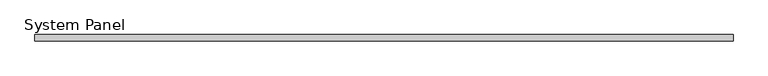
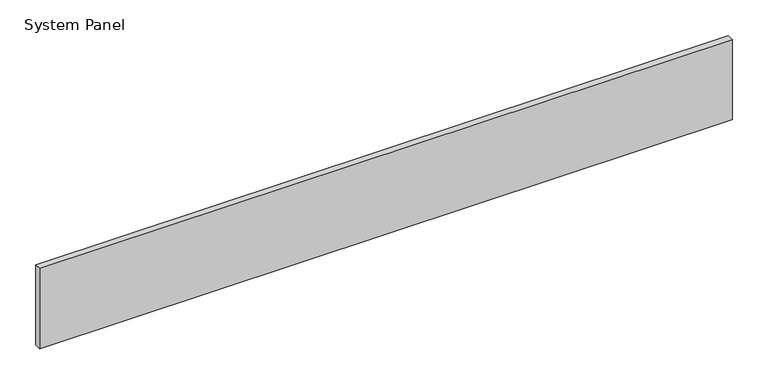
"""IFC4 building model written with IfcOpenShell, lengths in millimetres: plate geometry, System Panel : VACÍO."""

from ifc_helpers import new_model, si_unit, origin, origin_with_axes, place, context, project, spatial, polyline, outline, extrude, source, transform, mapped, element, save


def system_panel_c2da90dd(model_context):
    return source(origin(), model_context, "Body", "SweptSolid", [
        extrude(outline(polyline([(555.4580072, -5.0), (-555.4580072, -5.0), (-555.4580072, 5.0), (555.4580072, 5.0), (555.4580072, -5.0)])), origin_with_axes(), (0.0, 0.0, 1.0), 136.0),
    ])


if __name__ == "__main__":
    model = new_model("IFC4")
    model_context = context("Model", 3, world=origin())
    ifc_project = project(units=[si_unit("LENGTHUNIT", "METRE", prefix="MILLI")], contexts=[model_context])
    site = spatial("IfcSite", under=ifc_project)
    building = spatial("IfcBuilding", under=site)
    placement = place(None, origin())
    system_panel_shape = system_panel_c2da90dd(model_context)
    element("IfcPlate", 1, ObjectType="System Panel : VACÍO", at=placement, inside=building, context=model_context, shape_type="MappedRepresentation", body=[
        mapped(system_panel_shape, transform((0.0, 0.0, 0.0), x_axis=(1.0, 0.0, 0.0), y_axis=(0.0, 1.0, 0.0), z_axis=(0.0, 0.0, 1.0))),
    ])
    save(model, "model.ifc")
